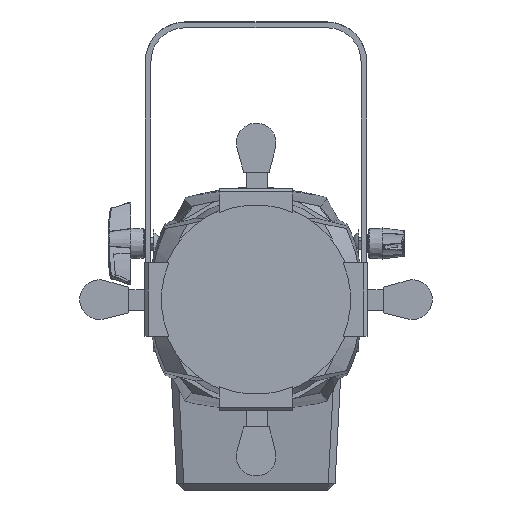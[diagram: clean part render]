
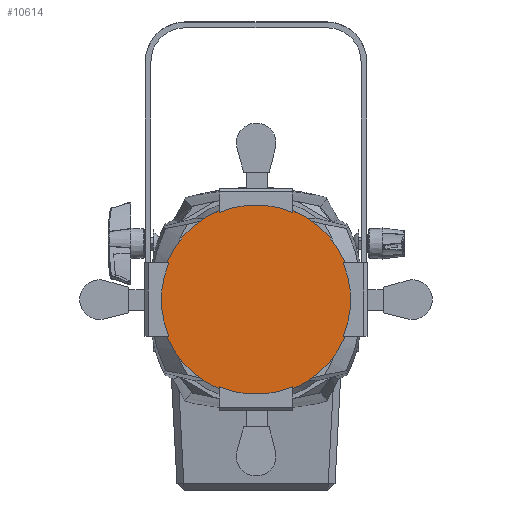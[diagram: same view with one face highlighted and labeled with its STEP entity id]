
A CAD part, front view. The second image highlights one B-rep face of the part: STEP entity #10614.
In plain terms, the highlighted planar face has unit normal (0, -1, 0).
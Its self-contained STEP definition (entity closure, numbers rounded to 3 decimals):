
#505=PLANE('',#11448);
#1423=CIRCLE('',#11371,83.578);
#1427=CIRCLE('',#11387,85.133);
#1430=CIRCLE('',#11391,85.133);
#1432=CIRCLE('',#11394,85.133);
#1433=CIRCLE('',#11396,85.133);
#1439=CIRCLE('',#11404,83.578);
#1442=CIRCLE('',#11419,83.578);
#1445=CIRCLE('',#11434,83.578);
#2173=ORIENTED_EDGE('',*,*,#5333,.F.);
#2174=ORIENTED_EDGE('',*,*,#5321,.F.);
#2175=ORIENTED_EDGE('',*,*,#5338,.F.);
#2176=ORIENTED_EDGE('',*,*,#5254,.F.);
#2177=ORIENTED_EDGE('',*,*,#5281,.T.);
#2178=ORIENTED_EDGE('',*,*,#5268,.T.);
#2179=ORIENTED_EDGE('',*,*,#5285,.T.);
#2180=ORIENTED_EDGE('',*,*,#5255,.F.);
#2181=ORIENTED_EDGE('',*,*,#5239,.T.);
#2182=ORIENTED_EDGE('',*,*,#5213,.T.);
#2183=ORIENTED_EDGE('',*,*,#5224,.T.);
#2184=ORIENTED_EDGE('',*,*,#5250,.F.);
#2185=ORIENTED_EDGE('',*,*,#5311,.T.);
#2186=ORIENTED_EDGE('',*,*,#5294,.T.);
#2187=ORIENTED_EDGE('',*,*,#5315,.T.);
#2188=ORIENTED_EDGE('',*,*,#5245,.F.);
#5213=EDGE_CURVE('',#6856,#6857,#1423,.F.);
#5224=EDGE_CURVE('',#6857,#6867,#7875,.T.);
#5239=EDGE_CURVE('',#6874,#6856,#7890,.T.);
#5245=EDGE_CURVE('',#6878,#6880,#1427,.T.);
#5250=EDGE_CURVE('',#6883,#6867,#1430,.T.);
#5254=EDGE_CURVE('',#6887,#6885,#1432,.T.);
#5255=EDGE_CURVE('',#6874,#6888,#1433,.T.);
#5268=EDGE_CURVE('',#6897,#6898,#1439,.F.);
#5281=EDGE_CURVE('',#6887,#6897,#7914,.T.);
#5285=EDGE_CURVE('',#6898,#6888,#7916,.T.);
#5294=EDGE_CURVE('',#6913,#6914,#1442,.F.);
#5311=EDGE_CURVE('',#6883,#6913,#7939,.T.);
#5315=EDGE_CURVE('',#6914,#6880,#7941,.T.);
#5321=EDGE_CURVE('',#6929,#6931,#1445,.T.);
#5333=EDGE_CURVE('',#6931,#6878,#7956,.T.);
#5338=EDGE_CURVE('',#6885,#6929,#7961,.T.);
#6856=VERTEX_POINT('',#14988);
#6857=VERTEX_POINT('',#14989);
#6867=VERTEX_POINT('',#15011);
#6874=VERTEX_POINT('',#15030);
#6878=VERTEX_POINT('',#15051);
#6880=VERTEX_POINT('',#15054);
#6883=VERTEX_POINT('',#15062);
#6885=VERTEX_POINT('',#15067);
#6887=VERTEX_POINT('',#15071);
#6888=VERTEX_POINT('',#15075);
#6897=VERTEX_POINT('',#15099);
#6898=VERTEX_POINT('',#15100);
#6913=VERTEX_POINT('',#15151);
#6914=VERTEX_POINT('',#15152);
#6929=VERTEX_POINT('',#15203);
#6931=VERTEX_POINT('',#15206);
#7875=LINE('',#15012,#8387);
#7890=LINE('',#15039,#8402);
#7914=LINE('',#15125,#8426);
#7916=LINE('',#15132,#8428);
#7939=LINE('',#15184,#8451);
#7941=LINE('',#15191,#8453);
#7956=LINE('',#15229,#8468);
#7961=LINE('',#15238,#8473);
#8387=VECTOR('',#12368,1000.);
#8402=VECTOR('',#12387,1000.);
#8426=VECTOR('',#12473,1000.);
#8428=VECTOR('',#12483,1000.);
#8451=VECTOR('',#12530,1000.);
#8453=VECTOR('',#12540,1000.);
#8468=VECTOR('',#12575,1000.);
#8473=VECTOR('',#12584,1000.);
#8918=EDGE_LOOP('',(#2173,#2174,#2175,#2176,#2177,#2178,#2179,#2180,#2181,
#2182,#2183,#2184,#2185,#2186,#2187,#2188));
#9726=FACE_BOUND('',#8918,.T.);
#10614=ADVANCED_FACE('',(#9726),#505,.T.);
#11371=AXIS2_PLACEMENT_3D('',#14987,#12350,#12351);
#11387=AXIS2_PLACEMENT_3D('',#15053,#12408,#12409);
#11391=AXIS2_PLACEMENT_3D('',#15063,#12418,#12419);
#11394=AXIS2_PLACEMENT_3D('',#15072,#12426,#12427);
#11396=AXIS2_PLACEMENT_3D('',#15074,#12430,#12431);
#11404=AXIS2_PLACEMENT_3D('',#15098,#12453,#12454);
#11419=AXIS2_PLACEMENT_3D('',#15150,#12504,#12505);
#11434=AXIS2_PLACEMENT_3D('',#15205,#12556,#12557);
#11448=AXIS2_PLACEMENT_3D('',#15253,#12604,#12605);
#12350=DIRECTION('',(0.,1.,0.));
#12351=DIRECTION('',(0.,0.,1.));
#12368=DIRECTION('',(1.,0.,0.));
#12387=DIRECTION('',(-1.,0.,0.));
#12408=DIRECTION('',(0.,1.,0.));
#12409=DIRECTION('',(1.,0.,0.));
#12418=DIRECTION('',(0.,1.,0.));
#12419=DIRECTION('',(1.,0.,0.));
#12426=DIRECTION('',(0.,1.,0.));
#12427=DIRECTION('',(1.,0.,0.));
#12430=DIRECTION('',(0.,1.,0.));
#12431=DIRECTION('',(1.,0.,0.));
#12453=DIRECTION('',(0.,1.,0.));
#12454=DIRECTION('',(0.,0.,1.));
#12473=DIRECTION('',(0.,0.,1.));
#12483=DIRECTION('',(0.,0.,-1.));
#12504=DIRECTION('',(0.,1.,0.));
#12505=DIRECTION('',(0.,0.,1.));
#12530=DIRECTION('',(0.,0.,-1.));
#12540=DIRECTION('',(0.,0.,1.));
#12556=DIRECTION('',(0.,1.,0.));
#12557=DIRECTION('',(0.,0.,1.));
#12575=DIRECTION('',(-1.,0.,0.));
#12584=DIRECTION('',(1.,0.,0.));
#12604=DIRECTION('',(0.,-1.,0.));
#12605=DIRECTION('',(0.,0.,-1.));
#14987=CARTESIAN_POINT('',(0.,-418.312,0.));
#14988=CARTESIAN_POINT('',(77.,-418.312,-32.5));
#14989=CARTESIAN_POINT('',(77.,-418.312,32.5));
#15011=CARTESIAN_POINT('',(78.686,-418.312,32.5));
#15012=CARTESIAN_POINT('',(77.,-418.312,32.5));
#15030=CARTESIAN_POINT('',(78.686,-418.312,-32.5));
#15039=CARTESIAN_POINT('',(98.,-418.312,-32.5));
#15051=CARTESIAN_POINT('',(-78.686,-418.312,32.5));
#15053=CARTESIAN_POINT('',(0.,-418.312,0.));
#15054=CARTESIAN_POINT('',(-32.5,-418.312,78.686));
#15062=CARTESIAN_POINT('',(32.5,-418.312,78.686));
#15063=CARTESIAN_POINT('',(0.,-418.312,0.));
#15067=CARTESIAN_POINT('',(-78.686,-418.312,-32.5));
#15071=CARTESIAN_POINT('',(-32.5,-418.312,-78.686));
#15072=CARTESIAN_POINT('',(0.,-418.312,0.));
#15074=CARTESIAN_POINT('',(0.,-418.312,0.));
#15075=CARTESIAN_POINT('',(32.5,-418.312,-78.686));
#15098=CARTESIAN_POINT('',(0.,-418.312,0.));
#15099=CARTESIAN_POINT('',(-32.5,-418.312,-77.));
#15100=CARTESIAN_POINT('',(32.5,-418.312,-77.));
#15125=CARTESIAN_POINT('',(-32.5,-418.312,-77.));
#15132=CARTESIAN_POINT('',(32.5,-418.312,-98.));
#15150=CARTESIAN_POINT('',(0.,-418.312,0.));
#15151=CARTESIAN_POINT('',(32.5,-418.312,77.));
#15152=CARTESIAN_POINT('',(-32.5,-418.312,77.));
#15184=CARTESIAN_POINT('',(32.5,-418.312,98.));
#15191=CARTESIAN_POINT('',(-32.5,-418.312,77.));
#15203=CARTESIAN_POINT('',(-77.,-418.312,-32.5));
#15205=CARTESIAN_POINT('',(0.,-418.312,0.));
#15206=CARTESIAN_POINT('',(-77.,-418.312,32.5));
#15229=CARTESIAN_POINT('',(-77.,-418.312,32.5));
#15238=CARTESIAN_POINT('',(-98.,-418.312,-32.5));
#15253=CARTESIAN_POINT('',(0.,-418.312,79.572));
